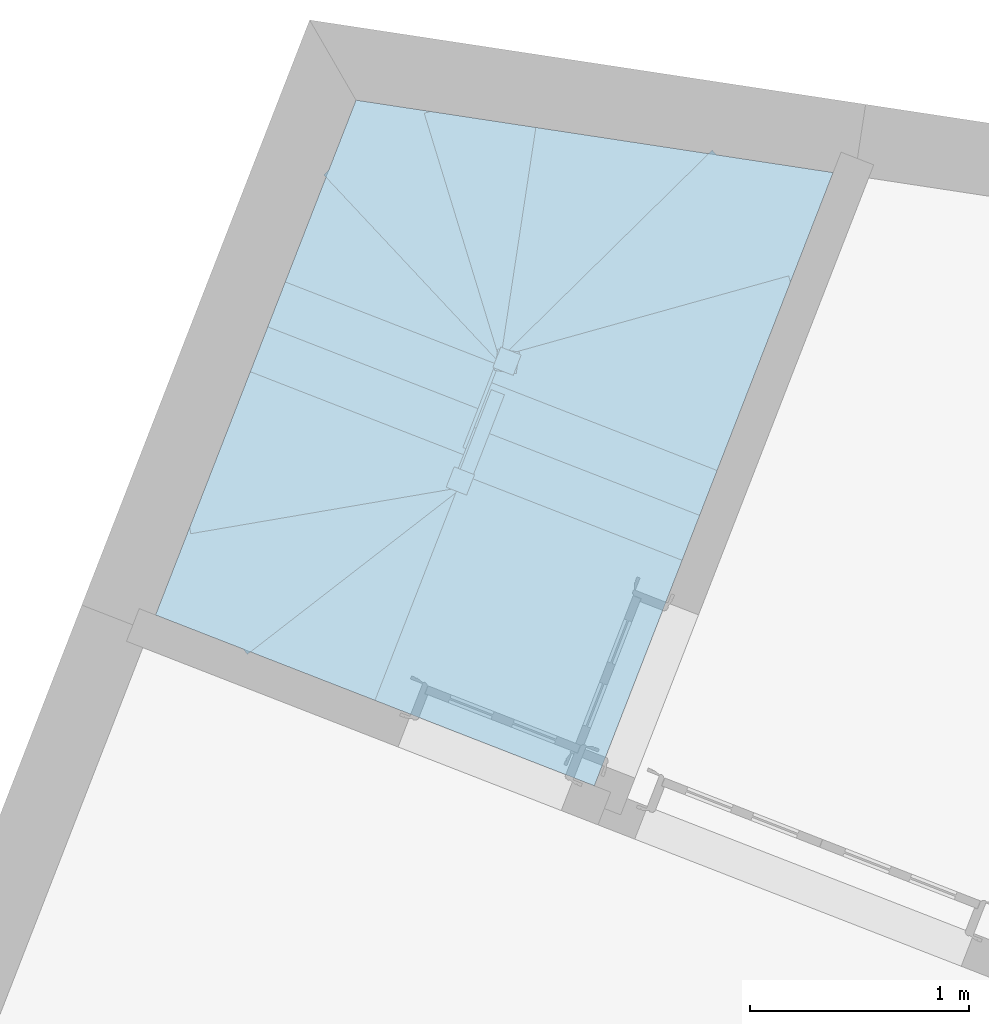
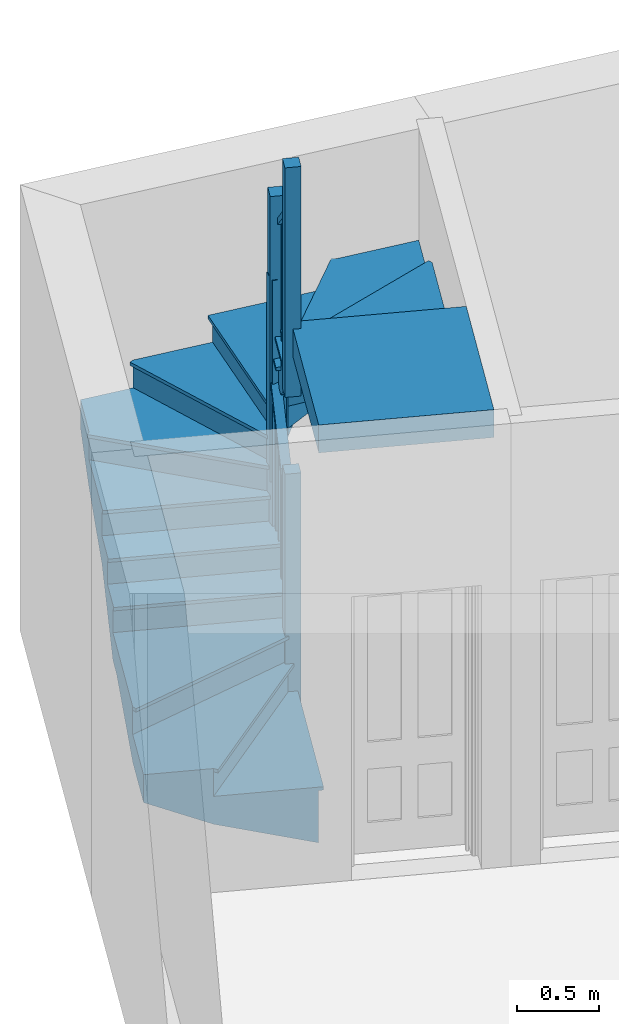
# One storey, part 7 of 7: 1 stair.
"""IFC4 building model written with IfcOpenShell, lengths in metres."""

from ifc_helpers import new_model, si_unit, frame, origin, origin_with_axes, place, context, subcontext, project, spatial, faceted_brep, element, save


model = new_model("IFC4")

# Units and contexts
model_context = context("Model", 3, world=origin_with_axes())
body_context = subcontext(model_context, "Body", "Model", "MODEL_VIEW")
ifc_project = project(units=[si_unit("PLANEANGLEUNIT", "RADIAN"), si_unit("MASSUNIT", "GRAM", prefix="KILO"), si_unit("FORCEUNIT", "NEWTON", prefix="KILO"), si_unit("LENGTHUNIT", "METRE"), si_unit("AREAUNIT", "SQUARE_METRE"), si_unit("VOLUMEUNIT", "CUBIC_METRE")], contexts=[model_context, model_context])

# Sites, building, storey
site_1_placement = place(None, origin_with_axes())
site_1 = spatial("IfcSite", under=ifc_project, at=site_1_placement, Name="Tamar")
site_2_placement = place(site_1_placement, origin_with_axes())
site_2 = spatial("IfcSite", under=site_1, at=site_2_placement, Name="Site plot-10", CompositionType="ELEMENT")
building_placement = place(None, origin_with_axes())
building = spatial("IfcBuilding", under=site_2, at=building_placement, Name="Building plot-10", CompositionType="ELEMENT")
storey_placement = place(None, frame((0.0, 0.0, 26.8), z_axis=(0.0, 0.0, 1.0), x_axis=(1.0, 0.0, 0.0)))
storey = spatial("IfcBuildingStorey", under=building, at=storey_placement, Name="plot-10 0", CompositionType="ELEMENT", Elevation=26.8)

# Stair
stair_placement = place(None, origin())
element("IfcStair", 1, at=stair_placement, inside=storey, Name="Stair", PredefinedType="NOTDEFINED", context=body_context, shape_type="Brep", body=[
    faceted_brep([(232.962063, 320.817461, 29.89375), (233.964143, 320.427315, 29.89375), (234.043961, 320.632325, 29.89375), (233.041881, 321.022471, 29.89375), (233.041881, 321.022471, 29.48125), (234.043961, 320.632325, 29.48125), (233.964143, 320.427315, 29.6875), (232.962063, 320.817461, 29.6875)], [[[0, 1, 2, 3]], [[4, 5, 6, 7]], [[7, 6, 1, 0]], [[1, 6, 5, 2]], [[5, 4, 3, 2]], [[3, 4, 7, 0]]]),
    faceted_brep([(234.043961, 320.632325, 29.86875), (234.054845, 320.660281, 29.86875), (234.043961, 320.632325, 29.89375), (233.953259, 320.399359, 29.86875), (233.964143, 320.427315, 29.86875), (233.964143, 320.427315, 29.89375), (234.054845, 320.660281, 29.89375), (233.953259, 320.399359, 29.89375), (233.024809, 321.061311, 29.89375), (233.041881, 321.022471, 29.89375), (233.041881, 321.022471, 29.86875), (233.024809, 321.061311, 29.86875), (232.923223, 320.800389, 29.89375), (232.962063, 320.817461, 29.89375), (232.962063, 320.817461, 29.86875), (232.923223, 320.800389, 29.86875)], [[[0, 1, 2]], [[3, 4, 5]], [[1, 6, 2]], [[7, 3, 5]], [[2, 6, 8, 9]], [[0, 2, 9, 10]], [[1, 0, 10, 11]], [[6, 1, 11, 8]], [[9, 8, 12, 13]], [[10, 9, 13, 14]], [[11, 10, 14, 15]], [[8, 11, 15, 12]], [[13, 12, 7, 5]], [[14, 13, 5, 4]], [[15, 14, 4, 3]], [[12, 15, 3, 7]]]),
    faceted_brep([(233.041881, 321.022471, 30.79375), (233.032811, 320.999174, 30.79375), (233.056107, 320.990104, 30.79375), (233.065177, 321.013401, 30.79375), (233.065177, 321.013401, 29.89375), (233.056107, 320.990104, 29.89375), (233.032811, 320.999174, 29.89375), (233.041881, 321.022471, 29.89375)], [[[0, 1, 2, 3]], [[4, 5, 6, 7]], [[7, 6, 1, 0]], [[6, 5, 2, 1]], [[5, 4, 3, 2]], [[4, 7, 0, 3]]]),
    faceted_brep([(233.001972, 320.919966, 30.896875), (232.992902, 320.896669, 30.896875), (233.016198, 320.887599, 30.896875), (233.025269, 320.910896, 30.896875), (233.025269, 320.910896, 29.89375), (233.016198, 320.887599, 29.89375), (232.992902, 320.896669, 29.89375), (233.001972, 320.919966, 29.89375)], [[[0, 1, 2, 3]], [[4, 5, 6, 7]], [[7, 6, 1, 0]], [[6, 5, 2, 1]], [[5, 4, 3, 2]], [[4, 7, 0, 3]]]),
    faceted_brep([(233.083815, 321.006145, 30.74375), (233.023244, 321.029727, 30.74375), (233.023244, 321.029727, 30.79375), (233.083815, 321.006145, 30.79375), (232.943426, 320.824717, 30.95), (233.003997, 320.801135, 30.95), (233.003997, 320.801135, 31.0), (232.943426, 320.824717, 31.0)], [[[0, 1, 2, 3]], [[4, 5, 6, 7]], [[0, 5, 4, 1]], [[3, 2, 7, 6]], [[0, 3, 6, 5]], [[2, 1, 4, 7]]]),
    faceted_brep([(233.041881, 321.022471, 29.6875), (234.043961, 320.632325, 29.6875), (234.123779, 320.837335, 29.6875), (233.121699, 321.227481, 29.6875), (233.121699, 321.227481, 29.275), (234.123779, 320.837335, 29.275), (234.043961, 320.632325, 29.48125), (233.041881, 321.022471, 29.48125)], [[[0, 1, 2, 3]], [[4, 5, 6, 7]], [[7, 6, 1, 0]], [[1, 6, 5, 2]], [[5, 4, 3, 2]], [[3, 4, 7, 0]]]),
    faceted_brep([(234.134663, 320.865291, 29.6625), (234.134663, 320.865291, 29.6875), (234.123779, 320.837335, 29.6625), (234.033077, 320.604369, 29.6875), (234.033077, 320.604369, 29.6625), (234.043961, 320.632325, 29.6625), (234.123779, 320.837335, 29.6875), (234.043961, 320.632325, 29.6875), (233.104627, 321.266321, 29.6875), (233.121699, 321.227481, 29.6875), (233.121699, 321.227481, 29.6625), (233.104627, 321.266321, 29.6625), (233.003041, 321.005399, 29.6875), (233.041881, 321.022471, 29.6875), (233.041881, 321.022471, 29.6625), (233.003041, 321.005399, 29.6625)], [[[0, 1, 2]], [[3, 4, 5]], [[2, 1, 6]], [[3, 5, 7]], [[6, 1, 8, 9]], [[2, 6, 9, 10]], [[0, 2, 10, 11]], [[1, 0, 11, 8]], [[9, 8, 12, 13]], [[10, 9, 13, 14]], [[11, 10, 14, 15]], [[8, 11, 15, 12]], [[13, 12, 3, 7]], [[14, 13, 7, 5]], [[15, 14, 5, 4]], [[12, 15, 4, 3]]]),
    faceted_brep([(233.121699, 321.227481, 30.5875), (233.112628, 321.204184, 30.5875), (233.135925, 321.195114, 30.5875), (233.144995, 321.218411, 30.5875), (233.144995, 321.218411, 29.6875), (233.135925, 321.195114, 29.6875), (233.112628, 321.204184, 29.6875), (233.121699, 321.227481, 29.6875)], [[[0, 1, 2, 3]], [[4, 5, 6, 7]], [[7, 6, 1, 0]], [[6, 5, 2, 1]], [[5, 4, 3, 2]], [[4, 7, 0, 3]]]),
    faceted_brep([(233.08179, 321.124976, 30.690625), (233.07272, 321.101679, 30.690625), (233.096016, 321.092609, 30.690625), (233.105086, 321.115906, 30.690625), (233.105086, 321.115906, 29.6875), (233.096016, 321.092609, 29.6875), (233.07272, 321.101679, 29.6875), (233.08179, 321.124976, 29.6875)], [[[0, 1, 2, 3]], [[4, 5, 6, 7]], [[7, 6, 1, 0]], [[6, 5, 2, 1]], [[5, 4, 3, 2]], [[4, 7, 0, 3]]]),
    faceted_brep([(233.163632, 321.211155, 30.5375), (233.103061, 321.234737, 30.5375), (233.103061, 321.234737, 30.5875), (233.163632, 321.211155, 30.5875), (233.023244, 321.029727, 30.74375), (233.083815, 321.006145, 30.74375), (233.083815, 321.006145, 30.79375), (233.023244, 321.029727, 30.79375)], [[[0, 1, 2, 3]], [[4, 5, 6, 7]], [[0, 5, 4, 1]], [[3, 2, 7, 6]], [[0, 3, 6, 5]], [[2, 1, 4, 7]]]),
    faceted_brep([(233.121699, 321.227481, 29.48125), (234.123779, 320.837335, 29.48125), (234.177096, 320.97428, 29.48125), (233.175016, 321.364426, 29.48125), (233.175016, 321.364426, 29.275), (234.177096, 320.97428, 29.275), (234.123779, 320.837335, 29.275), (233.121699, 321.227481, 29.275)], [[[0, 1, 2, 3]], [[4, 5, 6, 7]], [[7, 6, 1, 0]], [[6, 5, 2, 1]], [[5, 4, 3, 2]], [[4, 7, 0, 3]]]),
    faceted_brep([(233.175016, 321.364426, 29.45625), (233.14706, 321.37531, 29.45625), (233.175016, 321.364426, 29.48125), (233.093743, 321.238365, 29.45625), (233.121699, 321.227481, 29.45625), (233.121699, 321.227481, 29.48125), (233.14706, 321.37531, 29.48125), (233.093743, 321.238365, 29.48125)], [[[0, 1, 2]], [[3, 4, 5]], [[1, 6, 2]], [[7, 3, 5]], [[2, 6, 7, 5]], [[0, 2, 5, 4]], [[1, 0, 4, 3]], [[6, 1, 3, 7]]]),
    faceted_brep([(233.146563, 321.42916, 30.68125), (233.110283, 321.335973, 30.68125), (233.203469, 321.299692, 30.68125), (233.23975, 321.392879, 30.68125), (233.23975, 321.392879, 29.48125), (233.203469, 321.299692, 29.48125), (233.110283, 321.335973, 29.48125), (233.146563, 321.42916, 29.48125)], [[[0, 1, 2, 3]], [[4, 5, 6, 7]], [[7, 6, 1, 0]], [[6, 5, 2, 1]], [[5, 4, 3, 2]], [[4, 7, 0, 3]]]),
    faceted_brep([(234.177096, 320.97428, 29.48125), (234.469505, 321.725324, 29.48125), (233.175016, 321.364426, 29.48125), (233.175016, 321.364426, 29.06875), (234.469505, 321.725324, 29.06875), (234.177096, 320.97428, 29.275)], [[[0, 1, 2]], [[3, 4, 5]], [[0, 5, 4, 1]], [[4, 3, 2, 1]], [[2, 3, 5, 0]]]),
    faceted_brep([(234.469505, 321.725324, 29.45625), (234.461448, 321.754222, 29.45625), (234.469505, 321.725324, 29.48125), (233.16696, 321.393324, 29.45625), (233.175016, 321.364426, 29.45625), (233.175016, 321.364426, 29.48125), (234.461448, 321.754222, 29.48125), (233.16696, 321.393324, 29.48125)], [[[0, 1, 2]], [[3, 4, 5]], [[1, 6, 2]], [[7, 3, 5]], [[2, 6, 7, 5]], [[0, 2, 5, 4]], [[1, 0, 4, 3]], [[6, 1, 3, 7]]]),
    faceted_brep([(234.469505, 321.725324, 29.275), (234.664444, 322.226019, 29.275), (234.133223, 322.306651, 29.275), (233.175016, 321.364426, 29.275), (233.175016, 321.364426, 28.8625), (234.133223, 322.306651, 28.8625), (234.664444, 322.226019, 29.06875), (234.469505, 321.725324, 29.06875)], [[[0, 1, 2, 3]], [[4, 5, 6, 7]], [[7, 6, 1, 0]], [[1, 6, 5, 2]], [[5, 4, 3, 2]], [[3, 4, 7, 0]]]),
    faceted_brep([(234.112188, 322.328042, 29.25), (234.112188, 322.328042, 29.275), (234.133223, 322.306651, 29.25), (233.153982, 321.385817, 29.275), (233.153982, 321.385817, 29.25), (233.175016, 321.364426, 29.25), (234.133223, 322.306651, 29.275), (233.175016, 321.364426, 29.275)], [[[0, 1, 2]], [[3, 4, 5]], [[2, 1, 6]], [[3, 5, 7]], [[6, 1, 3, 7]], [[2, 6, 7, 5]], [[0, 2, 5, 4]], [[1, 0, 4, 3]]]),
    faceted_brep([(234.133223, 322.306651, 29.06875), (233.336391, 322.427599, 29.06875), (233.175016, 321.364426, 29.06875), (233.175016, 321.364426, 28.65625), (233.336391, 322.427599, 28.65625), (234.133223, 322.306651, 28.8625)], [[[0, 1, 2]], [[3, 4, 5]], [[0, 5, 4, 1]], [[4, 3, 2, 1]], [[2, 3, 5, 0]]]),
    faceted_brep([(233.336391, 322.427599, 29.04375), (233.306731, 322.432101, 29.04375), (233.336391, 322.427599, 29.06875), (233.145356, 321.368928, 29.04375), (233.175016, 321.364426, 29.04375), (233.175016, 321.364426, 29.06875), (233.306731, 322.432101, 29.06875), (233.145356, 321.368928, 29.06875)], [[[0, 1, 2]], [[3, 4, 5]], [[1, 6, 2]], [[7, 3, 5]], [[2, 6, 7, 5]], [[0, 2, 5, 4]], [[1, 0, 4, 3]], [[6, 1, 3, 7]]]),
    faceted_brep([(233.146563, 321.42916, 29.48125), (233.110283, 321.335973, 29.48125), (233.203469, 321.299692, 29.48125), (233.23975, 321.392879, 29.48125), (233.23975, 321.392879, 28.56875), (233.203469, 321.299692, 28.56875), (233.110283, 321.335973, 28.56875), (233.146563, 321.42916, 28.56875)], [[[0, 1, 2, 3]], [[4, 5, 6, 7]], [[7, 6, 1, 0]], [[6, 5, 2, 1]], [[5, 4, 3, 2]], [[4, 7, 0, 3]]]),
    faceted_brep([(233.175016, 321.364426, 28.65625), (233.336391, 322.427599, 28.65625), (233.336391, 322.427599, 28.8625), (233.175016, 321.364426, 28.8625)], [[[0, 1, 2, 3]], [[1, 0, 3, 2]]]),
    faceted_brep([(233.162832, 321.39184, 28.8375), (233.162832, 321.39184, 28.8625), (233.175016, 321.364426, 28.8375), (233.175016, 321.364426, 28.8625)], [[[0, 1, 2]], [[1, 0, 2]], [[2, 1, 3]], [[1, 2, 3]]]),
    faceted_brep([(233.118079, 321.322496, 30.0625), (233.216947, 321.307489, 30.0625), (233.231953, 321.406356, 30.0625), (233.133086, 321.421363, 30.0625), (233.133086, 321.421363, 28.8625), (233.231953, 321.406356, 28.8625), (233.216947, 321.307489, 28.8625), (233.118079, 321.322496, 28.8625)], [[[0, 1, 2, 3]], [[4, 5, 6, 7]], [[7, 6, 1, 0]], [[6, 5, 2, 1]], [[5, 4, 3, 2]], [[4, 7, 0, 3]]]),
    faceted_brep([(233.336391, 322.427599, 28.8625), (232.825717, 322.505112, 28.8625), (233.175016, 321.364426, 28.8625), (233.175016, 321.364426, 28.45), (232.825717, 322.505112, 28.45), (233.336391, 322.427599, 28.65625)], [[[0, 1, 2]], [[3, 4, 5]], [[0, 5, 4, 1]], [[4, 3, 2, 1]], [[2, 3, 5, 0]]]),
    faceted_brep([(232.825717, 322.505112, 28.8375), (232.797032, 322.496328, 28.8375), (232.825717, 322.505112, 28.8625), (233.146331, 321.355642, 28.8375), (233.175016, 321.364426, 28.8375), (233.175016, 321.364426, 28.8625), (232.797032, 322.496328, 28.8625), (233.146331, 321.355642, 28.8625)], [[[0, 1, 2]], [[3, 4, 5]], [[1, 6, 2]], [[7, 3, 5]], [[2, 6, 7, 5]], [[0, 2, 5, 4]], [[1, 0, 4, 3]], [[6, 1, 3, 7]]]),
    faceted_brep([(232.825717, 322.505112, 28.65625), (232.485267, 322.556788, 28.65625), (232.360335, 322.235901, 28.65625), (233.175016, 321.364426, 28.65625), (233.175016, 321.364426, 28.24375), (232.360335, 322.235901, 28.24375), (232.485267, 322.556788, 28.45), (232.825717, 322.505112, 28.45)], [[[0, 1, 2, 3]], [[4, 5, 6, 7]], [[7, 6, 1, 0]], [[1, 6, 5, 2]], [[5, 4, 3, 2]], [[3, 4, 7, 0]]]),
    faceted_brep([(232.360335, 322.235901, 28.63125), (232.33842, 322.215414, 28.63125), (232.360335, 322.235901, 28.65625), (233.153101, 321.343939, 28.63125), (233.175016, 321.364426, 28.63125), (233.175016, 321.364426, 28.65625), (232.33842, 322.215414, 28.65625), (233.153101, 321.343939, 28.65625)], [[[0, 1, 2]], [[3, 4, 5]], [[1, 6, 2]], [[7, 3, 5]], [[2, 6, 7, 5]], [[0, 2, 5, 4]], [[1, 0, 4, 3]], [[6, 1, 3, 7]]]),
    faceted_brep([(232.360335, 322.235901, 28.45), (232.172936, 321.754572, 28.45), (233.175016, 321.364426, 28.45), (233.175016, 321.364426, 28.0375), (232.172936, 321.754572, 28.0375), (232.360335, 322.235901, 28.24375)], [[[0, 1, 2]], [[3, 4, 5]], [[0, 5, 4, 1]], [[4, 3, 2, 1]], [[2, 3, 5, 0]]]),
    faceted_brep([(232.172936, 321.754572, 28.425), (232.162052, 321.726616, 28.425), (232.172936, 321.754572, 28.45), (233.164132, 321.33647, 28.425), (233.175016, 321.364426, 28.425), (233.175016, 321.364426, 28.45), (232.162052, 321.726616, 28.45), (233.164132, 321.33647, 28.45)], [[[0, 1, 2]], [[3, 4, 5]], [[1, 6, 2]], [[7, 3, 5]], [[2, 6, 7, 5]], [[0, 2, 5, 4]], [[1, 0, 4, 3]], [[6, 1, 3, 7]]]),
    faceted_brep([(233.118079, 321.322496, 28.8625), (233.216947, 321.307489, 28.8625), (233.231953, 321.406356, 28.8625), (233.133086, 321.421363, 28.8625), (233.133086, 321.421363, 27.95), (233.231953, 321.406356, 27.95), (233.216947, 321.307489, 27.95), (233.118079, 321.322496, 27.95)], [[[0, 1, 2, 3]], [[4, 5, 6, 7]], [[7, 6, 1, 0]], [[6, 5, 2, 1]], [[5, 4, 3, 2]], [[4, 7, 0, 3]]]),
    faceted_brep([(233.175016, 321.364426, 28.24375), (232.172936, 321.754572, 28.24375), (232.093118, 321.549562, 28.24375), (233.095198, 321.159416, 28.24375), (233.095198, 321.159416, 27.83125), (232.093118, 321.549562, 27.83125), (232.172936, 321.754572, 28.0375), (233.175016, 321.364426, 28.0375)], [[[0, 1, 2, 3]], [[4, 5, 6, 7]], [[7, 6, 1, 0]], [[1, 6, 5, 2]], [[5, 4, 3, 2]], [[3, 4, 7, 0]]]),
    faceted_brep([(232.082234, 321.521606, 28.21875), (232.082234, 321.521606, 28.24375), (232.093118, 321.549562, 28.21875), (232.18382, 321.782528, 28.24375), (232.18382, 321.782528, 28.21875), (232.172936, 321.754572, 28.21875), (232.093118, 321.549562, 28.24375), (232.172936, 321.754572, 28.24375), (233.11227, 321.120576, 28.24375), (233.095198, 321.159416, 28.24375), (233.095198, 321.159416, 28.21875), (233.11227, 321.120576, 28.21875), (233.213856, 321.381498, 28.24375), (233.175016, 321.364426, 28.24375), (233.175016, 321.364426, 28.21875), (233.213856, 321.381498, 28.21875)], [[[0, 1, 2]], [[3, 4, 5]], [[2, 1, 6]], [[3, 5, 7]], [[6, 1, 8, 9]], [[2, 6, 9, 10]], [[0, 2, 10, 11]], [[1, 0, 11, 8]], [[9, 8, 12, 13]], [[10, 9, 13, 14]], [[11, 10, 14, 15]], [[8, 11, 15, 12]], [[13, 12, 3, 7]], [[14, 13, 7, 5]], [[15, 14, 5, 4]], [[12, 15, 4, 3]]]),
    faceted_brep([(233.095198, 321.159416, 29.14375), (233.104269, 321.182713, 29.14375), (233.080972, 321.191783, 29.14375), (233.071902, 321.168486, 29.14375), (233.071902, 321.168486, 28.24375), (233.080972, 321.191783, 28.24375), (233.104269, 321.182713, 28.24375), (233.095198, 321.159416, 28.24375)], [[[0, 1, 2, 3]], [[4, 5, 6, 7]], [[7, 6, 1, 0]], [[6, 5, 2, 1]], [[5, 4, 3, 2]], [[4, 7, 0, 3]]]),
    faceted_brep([(233.135107, 321.261921, 29.246875), (233.144178, 321.285218, 29.246875), (233.120881, 321.294288, 29.246875), (233.111811, 321.270991, 29.246875), (233.111811, 321.270991, 28.24375), (233.120881, 321.294288, 28.24375), (233.144178, 321.285218, 28.24375), (233.135107, 321.261921, 28.24375)], [[[0, 1, 2, 3]], [[4, 5, 6, 7]], [[7, 6, 1, 0]], [[6, 5, 2, 1]], [[5, 4, 3, 2]], [[4, 7, 0, 3]]]),
    faceted_brep([(233.053265, 321.175742, 29.09375), (233.113836, 321.15216, 29.09375), (233.113836, 321.15216, 29.14375), (233.053265, 321.175742, 29.14375), (233.193654, 321.35717, 29.3), (233.133082, 321.380752, 29.3), (233.133082, 321.380752, 29.35), (233.193654, 321.35717, 29.35)], [[[0, 1, 2, 3]], [[4, 5, 6, 7]], [[0, 5, 4, 1]], [[3, 2, 7, 6]], [[0, 3, 6, 5]], [[2, 1, 4, 7]]]),
    faceted_brep([(233.095198, 321.159416, 28.0375), (232.093118, 321.549562, 28.0375), (232.0133, 321.344552, 28.0375), (233.015381, 320.954406, 28.0375), (233.015381, 320.954406, 27.625), (232.0133, 321.344552, 27.625), (232.093118, 321.549562, 27.83125), (233.095198, 321.159416, 27.83125)], [[[0, 1, 2, 3]], [[4, 5, 6, 7]], [[7, 6, 1, 0]], [[1, 6, 5, 2]], [[5, 4, 3, 2]], [[3, 4, 7, 0]]]),
    faceted_brep([(232.0133, 321.344552, 28.0125), (232.002416, 321.316596, 28.0125), (232.0133, 321.344552, 28.0375), (232.104002, 321.577518, 28.0125), (232.093118, 321.549562, 28.0125), (232.093118, 321.549562, 28.0375), (232.002416, 321.316596, 28.0375), (232.104002, 321.577518, 28.0375), (233.032452, 320.915566, 28.0375), (233.015381, 320.954406, 28.0375), (233.015381, 320.954406, 28.0125), (233.032452, 320.915566, 28.0125), (233.134039, 321.176488, 28.0375), (233.095198, 321.159416, 28.0375), (233.095198, 321.159416, 28.0125), (233.134039, 321.176488, 28.0125)], [[[0, 1, 2]], [[3, 4, 5]], [[1, 6, 2]], [[7, 3, 5]], [[2, 6, 8, 9]], [[0, 2, 9, 10]], [[1, 0, 10, 11]], [[6, 1, 11, 8]], [[9, 8, 12, 13]], [[10, 9, 13, 14]], [[11, 10, 14, 15]], [[8, 11, 15, 12]], [[13, 12, 7, 5]], [[14, 13, 5, 4]], [[15, 14, 4, 3]], [[12, 15, 3, 7]]]),
    faceted_brep([(233.015381, 320.954406, 28.9375), (233.024451, 320.977703, 28.9375), (233.001154, 320.986773, 28.9375), (232.992084, 320.963476, 28.9375), (232.992084, 320.963476, 28.0375), (233.001154, 320.986773, 28.0375), (233.024451, 320.977703, 28.0375), (233.015381, 320.954406, 28.0375)], [[[0, 1, 2, 3]], [[4, 5, 6, 7]], [[7, 6, 1, 0]], [[6, 5, 2, 1]], [[5, 4, 3, 2]], [[4, 7, 0, 3]]]),
    faceted_brep([(233.05529, 321.056911, 29.040625), (233.06436, 321.080208, 29.040625), (233.041063, 321.089278, 29.040625), (233.031993, 321.065981, 29.040625), (233.031993, 321.065981, 28.0375), (233.041063, 321.089278, 28.0375), (233.06436, 321.080208, 28.0375), (233.05529, 321.056911, 28.0375)], [[[0, 1, 2, 3]], [[4, 5, 6, 7]], [[7, 6, 1, 0]], [[6, 5, 2, 1]], [[5, 4, 3, 2]], [[4, 7, 0, 3]]]),
    faceted_brep([(232.973447, 320.970732, 28.8875), (233.034018, 320.94715, 28.8875), (233.034018, 320.94715, 28.9375), (232.973447, 320.970732, 28.9375), (233.113836, 321.15216, 29.09375), (233.053265, 321.175742, 29.09375), (233.053265, 321.175742, 29.14375), (233.113836, 321.15216, 29.14375)], [[[0, 1, 2, 3]], [[4, 5, 6, 7]], [[0, 5, 4, 1]], [[3, 2, 7, 6]], [[0, 3, 6, 5]], [[2, 1, 4, 7]]]),
    faceted_brep([(233.015381, 320.954406, 27.83125), (232.0133, 321.344552, 27.83125), (231.959983, 321.207607, 27.83125), (232.962063, 320.817461, 27.83125), (232.962063, 320.817461, 27.625), (231.959983, 321.207607, 27.625), (232.0133, 321.344552, 27.625), (233.015381, 320.954406, 27.625)], [[[0, 1, 2, 3]], [[4, 5, 6, 7]], [[7, 6, 1, 0]], [[6, 5, 2, 1]], [[5, 4, 3, 2]], [[4, 7, 0, 3]]]),
    faceted_brep([(232.990019, 320.806577, 27.80625), (232.990019, 320.806577, 27.83125), (232.962063, 320.817461, 27.80625), (233.043337, 320.943522, 27.83125), (233.043337, 320.943522, 27.80625), (233.015381, 320.954406, 27.80625), (232.962063, 320.817461, 27.83125), (233.015381, 320.954406, 27.83125)], [[[0, 1, 2]], [[3, 4, 5]], [[2, 1, 6]], [[3, 5, 7]], [[6, 1, 3, 7]], [[2, 6, 7, 5]], [[0, 2, 5, 4]], [[1, 0, 4, 3]]]),
    faceted_brep([(232.990516, 320.752727, 29.03125), (233.026797, 320.845914, 29.03125), (232.93361, 320.882195, 29.03125), (232.897329, 320.789008, 29.03125), (232.897329, 320.789008, 27.83125), (232.93361, 320.882195, 27.83125), (233.026797, 320.845914, 27.83125), (232.990516, 320.752727, 27.83125)], [[[0, 1, 2, 3]], [[4, 5, 6, 7]], [[7, 6, 1, 0]], [[6, 5, 2, 1]], [[5, 4, 3, 2]], [[4, 7, 0, 3]]]),
    faceted_brep([(231.959983, 321.207607, 27.83125), (231.725895, 320.606359, 27.83125), (232.962063, 320.817461, 27.83125), (232.962063, 320.817461, 27.41875), (231.725895, 320.606359, 27.41875), (231.959983, 321.207607, 27.625)], [[[0, 1, 2]], [[3, 4, 5]], [[0, 5, 4, 1]], [[4, 3, 2, 1]], [[2, 3, 5, 0]]]),
    faceted_brep([(231.725895, 320.606359, 27.80625), (231.730945, 320.576787, 27.80625), (231.725895, 320.606359, 27.83125), (232.967113, 320.787889, 27.80625), (232.962063, 320.817461, 27.80625), (232.962063, 320.817461, 27.83125), (231.730945, 320.576787, 27.83125), (232.967113, 320.787889, 27.83125)], [[[0, 1, 2]], [[3, 4, 5]], [[1, 6, 2]], [[7, 3, 5]], [[2, 6, 7, 5]], [[0, 2, 5, 4]], [[1, 0, 4, 3]], [[6, 1, 3, 7]]]),
    faceted_brep([(231.725895, 320.606359, 27.625), (231.569837, 320.205527, 27.625), (231.970669, 320.049468, 27.625), (232.962063, 320.817461, 27.625), (232.962063, 320.817461, 27.2125), (231.970669, 320.049468, 27.2125), (231.569837, 320.205527, 27.41875), (231.725895, 320.606359, 27.41875)], [[[0, 1, 2, 3]], [[4, 5, 6, 7]], [[7, 6, 1, 0]], [[1, 6, 5, 2]], [[5, 4, 3, 2]], [[3, 4, 7, 0]]]),
    faceted_brep([(231.970669, 320.049468, 27.6), (231.989041, 320.025752, 27.6), (231.970669, 320.049468, 27.625), (232.980435, 320.793745, 27.6), (232.962063, 320.817461, 27.6), (232.962063, 320.817461, 27.625), (231.989041, 320.025752, 27.625), (232.980435, 320.793745, 27.625)], [[[0, 1, 2]], [[3, 4, 5]], [[1, 6, 2]], [[7, 3, 5]], [[2, 6, 7, 5]], [[0, 2, 5, 4]], [[1, 0, 4, 3]], [[6, 1, 3, 7]]]),
    faceted_brep([(231.970669, 320.049468, 27.41875), (232.571917, 319.815381, 27.41875), (232.962063, 320.817461, 27.41875), (232.962063, 320.817461, 27.00625), (232.571917, 319.815381, 27.00625), (231.970669, 320.049468, 27.2125)], [[[0, 1, 2]], [[3, 4, 5]], [[0, 5, 4, 1]], [[4, 3, 2, 1]], [[2, 3, 5, 0]]]),
    faceted_brep([(232.599873, 319.804496, 27.39375), (232.599873, 319.804496, 27.41875), (232.571917, 319.815381, 27.39375), (232.990019, 320.806577, 27.41875), (232.990019, 320.806577, 27.39375), (232.962063, 320.817461, 27.39375), (232.571917, 319.815381, 27.41875), (232.962063, 320.817461, 27.41875)], [[[0, 1, 2]], [[3, 4, 5]], [[2, 1, 6]], [[3, 5, 7]], [[6, 1, 3, 7]], [[2, 6, 7, 5]], [[0, 2, 5, 4]], [[1, 0, 4, 3]]]),
    faceted_brep([(232.990516, 320.752727, 27.83125), (233.026797, 320.845914, 27.83125), (232.93361, 320.882195, 27.83125), (232.897329, 320.789008, 27.83125), (232.897329, 320.789008, 26.91875), (232.93361, 320.882195, 26.91875), (233.026797, 320.845914, 26.91875), (232.990516, 320.752727, 26.91875)], [[[0, 1, 2, 3]], [[4, 5, 6, 7]], [[7, 6, 1, 0]], [[6, 5, 2, 1]], [[5, 4, 3, 2]], [[4, 7, 0, 3]]]),
    faceted_brep([(232.962063, 320.817461, 27.00625), (232.571917, 319.815381, 27.00625), (232.571917, 319.815381, 27.2125), (232.962063, 320.817461, 27.2125)], [[[0, 1, 2, 3]], [[1, 0, 3, 2]]]),
    faceted_brep([(232.962063, 320.817461, 27.1875), (232.946628, 320.791736, 27.1875), (232.962063, 320.817461, 27.2125), (232.946628, 320.791736, 27.2125)], [[[0, 1, 2]], [[1, 0, 2]], [[1, 3, 2]], [[3, 1, 2]]]),
    faceted_brep([(233.026797, 320.845914, 31.3), (232.93361, 320.882195, 31.3), (232.897329, 320.789008, 31.3), (232.990516, 320.752727, 31.3), (232.990516, 320.752727, 30.1), (232.897329, 320.789008, 30.1), (232.93361, 320.882195, 30.1), (233.026797, 320.845914, 30.1)], [[[0, 1, 2, 3]], [[4, 5, 6, 7]], [[7, 6, 1, 0]], [[6, 5, 2, 1]], [[5, 4, 3, 2]], [[4, 7, 0, 3]]]),
    faceted_brep([(232.962063, 320.817461, 30.1), (232.571917, 319.815381, 30.1), (233.573997, 319.425235, 30.1), (233.964143, 320.427315, 30.1), (233.964143, 320.427315, 29.89375), (233.573997, 319.425235, 29.89375), (232.571917, 319.815381, 29.89375), (232.962063, 320.817461, 29.89375)], [[[0, 1, 2, 3]], [[4, 5, 6, 7]], [[7, 6, 1, 0]], [[6, 5, 2, 1]], [[5, 4, 3, 2]], [[4, 7, 0, 3]]]),
    faceted_brep([(233.975028, 320.455271, 30.075), (233.975028, 320.455271, 30.1), (233.964143, 320.427315, 30.075), (232.972947, 320.845417, 30.1), (232.972947, 320.845417, 30.075), (232.962063, 320.817461, 30.075), (233.964143, 320.427315, 30.1), (232.962063, 320.817461, 30.1)], [[[0, 1, 2]], [[3, 4, 5]], [[2, 1, 6]], [[3, 5, 7]], [[6, 1, 3, 7]], [[2, 6, 7, 5]], [[0, 2, 5, 4]], [[1, 0, 4, 3]]]),
    faceted_brep([(233.026797, 320.845914, 30.1), (232.93361, 320.882195, 30.1), (232.897329, 320.789008, 30.1), (232.990516, 320.752727, 30.1), (232.990516, 320.752727, 29.6), (232.897329, 320.789008, 29.6), (232.93361, 320.882195, 29.6), (233.026797, 320.845914, 29.6)], [[[0, 1, 2, 3]], [[4, 5, 6, 7]], [[7, 6, 1, 0]], [[6, 5, 2, 1]], [[5, 4, 3, 2]], [[4, 7, 0, 3]]]),
])

save(model, "model.ifc")
